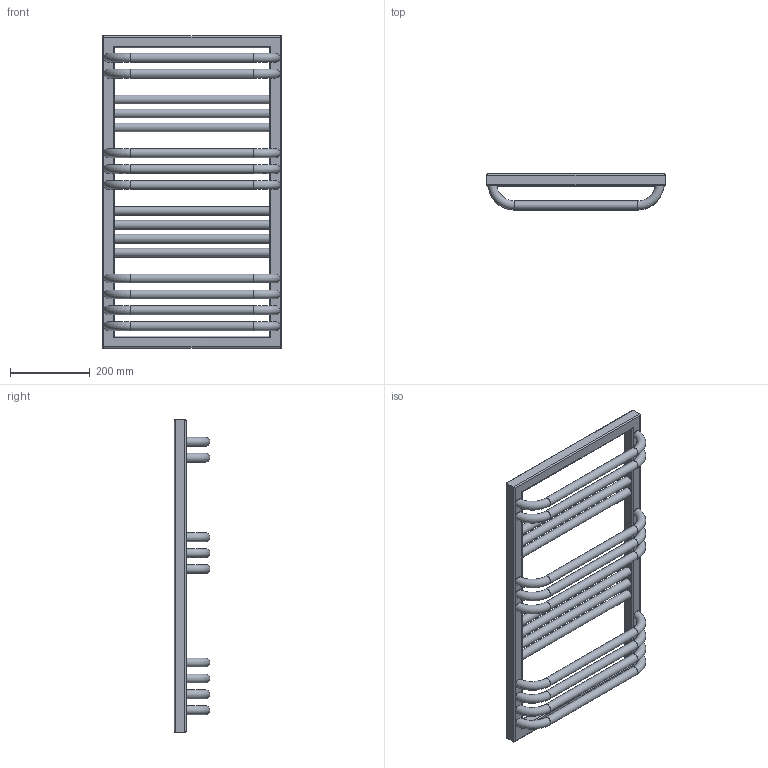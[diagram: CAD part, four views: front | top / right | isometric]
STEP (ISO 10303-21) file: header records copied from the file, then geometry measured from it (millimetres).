
FILE_DESCRIPTION((''),'2;1');
FILE_NAME('Z:\R\G\P\RGPH18 - Grzejnik POC\Work\Inventor\POC 1-6-8 v2.0\Marketing\AutoCad 3D\POC-785-450-1-6-8.stp','2012-07-12T14:39:48',('KurKa'),(''),'Autodesk Inventor 2012','Autodesk Inventor 2012','');
FILE_SCHEMA(('AUTOMOTIVE_DESIGN { 1 0 10303 214 1 1 1 1 }'));
Length unit declared in the file: millimetre
Products named in the file (1): POC-785-450-1-6-8
Bounding box: 450 x 90 x 785 mm (x, y, z)
Volume: 4740163.8 mm3; surface area: 741281.9 mm2
Topology: 1 solids, 1 shells, 69 faces, 173 edges, 109 vertices
Faces by surface type: cylinder 35, torus 21, plane 13
Full cylindrical faces by diameter (mm): 18.631 x3, 22 x16
Entity records: 2918 total; most frequent: CARTESIAN_POINT 1446, DIRECTION 294, ORIENTED_EDGE 230, EDGE_LOOP 146, AXIS2_PLACEMENT_3D 127, EDGE_CURVE 115, VERTEX_POINT 91, FACE_BOUND 77
